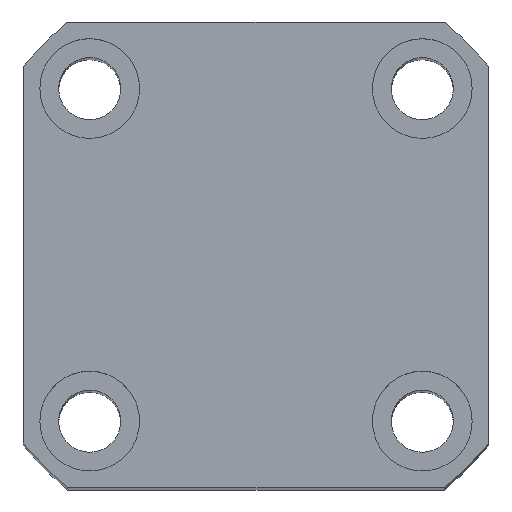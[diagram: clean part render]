
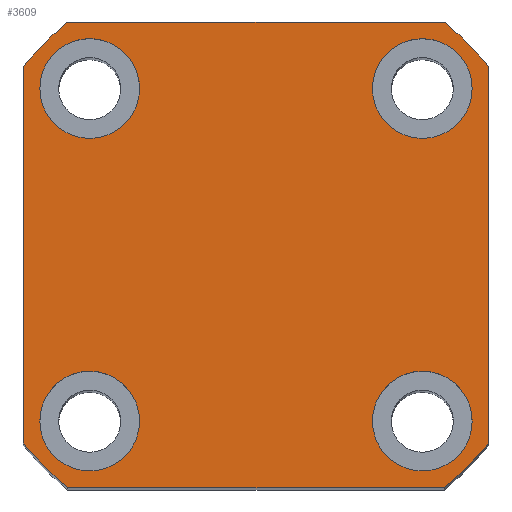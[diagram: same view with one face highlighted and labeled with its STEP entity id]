
A CAD part, top view. The second image highlights one B-rep face of the part: STEP entity #3609.
In plain terms, the highlighted planar face has unit normal (0, 0, 1).
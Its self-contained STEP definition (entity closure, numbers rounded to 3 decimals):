
#6 = CARTESIAN_POINT ( 'NONE',  ( 15., -14.998, 123. ) ) ;
#21 = ORIENTED_EDGE ( 'NONE', *, *, #10220, .F. ) ;
#46 = CARTESIAN_POINT ( 'NONE',  ( 21., -16.971, 123. ) ) ;
#193 = VERTEX_POINT ( 'NONE', #11933 ) ;
#309 = CARTESIAN_POINT ( 'NONE',  ( -16.971, 21., 123. ) ) ;
#624 = EDGE_CURVE ( 'NONE', #4788, #9771, #13396, .T. ) ;
#673 = DIRECTION ( 'NONE',  ( 1., 0., 0. ) ) ;
#701 = CIRCLE ( 'NONE', #11856, 4.5 ) ;
#804 = ORIENTED_EDGE ( 'NONE', *, *, #12317, .F. ) ;
#818 = EDGE_CURVE ( 'NONE', #3665, #193, #12085, .T. ) ;
#1078 = DIRECTION ( 'NONE',  ( 1., 0., 0. ) ) ;
#1123 = EDGE_CURVE ( 'NONE', #2475, #3665, #13598, .T. ) ;
#1146 = CARTESIAN_POINT ( 'NONE',  ( -21., -21., 123. ) ) ;
#1151 = AXIS2_PLACEMENT_3D ( 'NONE', #9530, #3093, #10611 ) ;
#1327 = DIRECTION ( 'NONE',  ( 0., 0., 1. ) ) ;
#1342 = ORIENTED_EDGE ( 'NONE', *, *, #1123, .T. ) ;
#1356 = ORIENTED_EDGE ( 'NONE', *, *, #12049, .F. ) ;
#1398 = DIRECTION ( 'NONE',  ( 0., 0., 1. ) ) ;
#1494 = DIRECTION ( 'NONE',  ( 0., 0., 1. ) ) ;
#1530 = CARTESIAN_POINT ( 'NONE',  ( 15., 15., 123. ) ) ;
#1538 = CIRCLE ( 'NONE', #2662, 4.5 ) ;
#1540 = CIRCLE ( 'NONE', #12542, 27. ) ;
#1594 = VERTEX_POINT ( 'NONE', #12288 ) ;
#1636 = CARTESIAN_POINT ( 'NONE',  ( -16.971, -21., 123. ) ) ;
#1853 = AXIS2_PLACEMENT_3D ( 'NONE', #12776, #6366, #13826 ) ;
#2143 = FACE_BOUND ( 'NONE', #7684, .T. ) ;
#2416 = AXIS2_PLACEMENT_3D ( 'NONE', #1530, #9054, #2606 ) ;
#2475 = VERTEX_POINT ( 'NONE', #309 ) ;
#2595 = DIRECTION ( 'NONE',  ( 0., 0., 1. ) ) ;
#2606 = DIRECTION ( 'NONE',  ( 1., 0., 0. ) ) ;
#2655 = VERTEX_POINT ( 'NONE', #1636 ) ;
#2662 = AXIS2_PLACEMENT_3D ( 'NONE', #6, #7525, #1078 ) ;
#2982 = VERTEX_POINT ( 'NONE', #8603 ) ;
#2987 = DIRECTION ( 'NONE',  ( 0., 0., 1. ) ) ;
#3093 = DIRECTION ( 'NONE',  ( 0., 0., 1. ) ) ;
#3210 = AXIS2_PLACEMENT_3D ( 'NONE', #7837, #1398, #8930 ) ;
#3268 = VECTOR ( 'NONE', #5034, 1000. ) ;
#3280 = DIRECTION ( 'NONE',  ( 0., 0., 1. ) ) ;
#3302 = DIRECTION ( 'NONE',  ( 1., 0., 0. ) ) ;
#3477 = VECTOR ( 'NONE', #12357, 1000. ) ;
#3514 = ORIENTED_EDGE ( 'NONE', *, *, #12752, .F. ) ;
#3609 = ADVANCED_FACE ( 'NONE', ( #10368, #5008, #2143, #10714, #7540 ), #6777, .T. ) ;
#3648 = CARTESIAN_POINT ( 'NONE',  ( 19.5, 15., 123. ) ) ;
#3665 = VERTEX_POINT ( 'NONE', #11077 ) ;
#3943 = VERTEX_POINT ( 'NONE', #4513 ) ;
#4052 = CIRCLE ( 'NONE', #5560, 4.5 ) ;
#4102 = EDGE_CURVE ( 'NONE', #11700, #11743, #8325, .T. ) ;
#4513 = CARTESIAN_POINT ( 'NONE',  ( 10.5, -14.998, 123. ) ) ;
#4523 = ORIENTED_EDGE ( 'NONE', *, *, #8367, .T. ) ;
#4540 = ORIENTED_EDGE ( 'NONE', *, *, #12824, .F. ) ;
#4553 = EDGE_CURVE ( 'NONE', #5987, #8929, #13158, .T. ) ;
#4788 = VERTEX_POINT ( 'NONE', #13461 ) ;
#4792 = DIRECTION ( 'NONE',  ( -1., 0., 0. ) ) ;
#5008 = FACE_BOUND ( 'NONE', #7338, .T. ) ;
#5034 = DIRECTION ( 'NONE',  ( 0., 1., 0. ) ) ;
#5400 = ORIENTED_EDGE ( 'NONE', *, *, #4102, .T. ) ;
#5560 = AXIS2_PLACEMENT_3D ( 'NONE', #9711, #3280, #10799 ) ;
#5905 = CIRCLE ( 'NONE', #1853, 27. ) ;
#5987 = VERTEX_POINT ( 'NONE', #3648 ) ;
#6025 = CARTESIAN_POINT ( 'NONE',  ( 0., 0., 123. ) ) ;
#6111 = VECTOR ( 'NONE', #3302, 1000. ) ;
#6259 = CIRCLE ( 'NONE', #1151, 4.5 ) ;
#6360 = CARTESIAN_POINT ( 'NONE',  ( -10.5, -14.998, 123. ) ) ;
#6366 = DIRECTION ( 'NONE',  ( 0., 0., 1. ) ) ;
#6412 = ORIENTED_EDGE ( 'NONE', *, *, #11411, .T. ) ;
#6635 = AXIS2_PLACEMENT_3D ( 'NONE', #9345, #1494, #11128 ) ;
#6746 = ORIENTED_EDGE ( 'NONE', *, *, #13886, .T. ) ;
#6759 = ORIENTED_EDGE ( 'NONE', *, *, #13868, .F. ) ;
#6777 = PLANE ( 'NONE',  #3210 ) ;
#6830 = EDGE_CURVE ( 'NONE', #1594, #11700, #1540, .T. ) ;
#7025 = EDGE_CURVE ( 'NONE', #7748, #2475, #7857, .T. ) ;
#7070 = DIRECTION ( 'NONE',  ( 0., 0., 1. ) ) ;
#7103 = DIRECTION ( 'NONE',  ( 1., 0., 0. ) ) ;
#7128 = DIRECTION ( 'NONE',  ( 0., 0., 1. ) ) ;
#7338 = EDGE_LOOP ( 'NONE', ( #1356, #6759 ) ) ;
#7525 = DIRECTION ( 'NONE',  ( 0., 0., 1. ) ) ;
#7538 = AXIS2_PLACEMENT_3D ( 'NONE', #9422, #2987, #10492 ) ;
#7540 = FACE_OUTER_BOUND ( 'NONE', #9562, .T. ) ;
#7607 = AXIS2_PLACEMENT_3D ( 'NONE', #6025, #13505, #7103 ) ;
#7684 = EDGE_LOOP ( 'NONE', ( #804, #3514 ) ) ;
#7748 = VERTEX_POINT ( 'NONE', #13592 ) ;
#7771 = CARTESIAN_POINT ( 'NONE',  ( 0., 0., 123. ) ) ;
#7837 = CARTESIAN_POINT ( 'NONE',  ( 0., 0., 123. ) ) ;
#7857 = LINE ( 'NONE', #12321, #10018 ) ;
#8325 = LINE ( 'NONE', #11462, #3268 ) ;
#8367 = EDGE_CURVE ( 'NONE', #11743, #7748, #12223, .T. ) ;
#8603 = CARTESIAN_POINT ( 'NONE',  ( 19.5, -14.998, 123. ) ) ;
#8604 = CARTESIAN_POINT ( 'NONE',  ( 21., 16.971, 123. ) ) ;
#8855 = DIRECTION ( 'NONE',  ( 1., 0., 0. ) ) ;
#8929 = VERTEX_POINT ( 'NONE', #12005 ) ;
#8930 = DIRECTION ( 'NONE',  ( 1., 0., 0. ) ) ;
#8931 = ORIENTED_EDGE ( 'NONE', *, *, #4553, .F. ) ;
#9043 = CARTESIAN_POINT ( 'NONE',  ( 15., -14.998, 123. ) ) ;
#9054 = DIRECTION ( 'NONE',  ( 0., 0., 1. ) ) ;
#9275 = VERTEX_POINT ( 'NONE', #6360 ) ;
#9345 = CARTESIAN_POINT ( 'NONE',  ( -15., 15.002, 123. ) ) ;
#9422 = CARTESIAN_POINT ( 'NONE',  ( -15., -14.998, 123. ) ) ;
#9507 = VERTEX_POINT ( 'NONE', #10931 ) ;
#9530 = CARTESIAN_POINT ( 'NONE',  ( -15., -14.998, 123. ) ) ;
#9562 = EDGE_LOOP ( 'NONE', ( #5400, #4523, #13630, #1342, #9569, #6746, #6412, #11776 ) ) ;
#9569 = ORIENTED_EDGE ( 'NONE', *, *, #818, .T. ) ;
#9711 = CARTESIAN_POINT ( 'NONE',  ( -15., 15.002, 123. ) ) ;
#9771 = VERTEX_POINT ( 'NONE', #13489 ) ;
#10018 = VECTOR ( 'NONE', #4792, 1000. ) ;
#10103 = DIRECTION ( 'NONE',  ( 1., 0., 0. ) ) ;
#10186 = DIRECTION ( 'NONE',  ( 1., 0., 0. ) ) ;
#10220 = EDGE_CURVE ( 'NONE', #8929, #5987, #11689, .T. ) ;
#10368 = FACE_BOUND ( 'NONE', #11465, .T. ) ;
#10492 = DIRECTION ( 'NONE',  ( 1., 0., 0. ) ) ;
#10611 = DIRECTION ( 'NONE',  ( 1., 0., 0. ) ) ;
#10648 = CARTESIAN_POINT ( 'NONE',  ( -21., 21., 123. ) ) ;
#10714 = FACE_BOUND ( 'NONE', #12373, .T. ) ;
#10799 = DIRECTION ( 'NONE',  ( 1., 0., 0. ) ) ;
#10931 = CARTESIAN_POINT ( 'NONE',  ( -19.5, -14.998, 123. ) ) ;
#11077 = CARTESIAN_POINT ( 'NONE',  ( -21., 16.971, 123. ) ) ;
#11128 = DIRECTION ( 'NONE',  ( 1., 0., 0. ) ) ;
#11187 = CARTESIAN_POINT ( 'NONE',  ( 0., 0., 123. ) ) ;
#11411 = EDGE_CURVE ( 'NONE', #2655, #1594, #12492, .T. ) ;
#11462 = CARTESIAN_POINT ( 'NONE',  ( 21., 21., 123. ) ) ;
#11465 = EDGE_LOOP ( 'NONE', ( #11959, #4540 ) ) ;
#11689 = CIRCLE ( 'NONE', #12022, 4.5 ) ;
#11700 = VERTEX_POINT ( 'NONE', #46 ) ;
#11743 = VERTEX_POINT ( 'NONE', #8604 ) ;
#11776 = ORIENTED_EDGE ( 'NONE', *, *, #6830, .T. ) ;
#11856 = AXIS2_PLACEMENT_3D ( 'NONE', #9043, #2595, #10103 ) ;
#11933 = CARTESIAN_POINT ( 'NONE',  ( -21., -16.971, 123. ) ) ;
#11959 = ORIENTED_EDGE ( 'NONE', *, *, #624, .F. ) ;
#12005 = CARTESIAN_POINT ( 'NONE',  ( 10.5, 15., 123. ) ) ;
#12022 = AXIS2_PLACEMENT_3D ( 'NONE', #13533, #7128, #673 ) ;
#12049 = EDGE_CURVE ( 'NONE', #9275, #9507, #13469, .T. ) ;
#12085 = LINE ( 'NONE', #10648, #3477 ) ;
#12223 = CIRCLE ( 'NONE', #7607, 27. ) ;
#12288 = CARTESIAN_POINT ( 'NONE',  ( 16.971, -21., 123. ) ) ;
#12317 = EDGE_CURVE ( 'NONE', #2982, #3943, #701, .T. ) ;
#12321 = CARTESIAN_POINT ( 'NONE',  ( -21., 21., 123. ) ) ;
#12357 = DIRECTION ( 'NONE',  ( 0., -1., 0. ) ) ;
#12373 = EDGE_LOOP ( 'NONE', ( #8931, #21 ) ) ;
#12492 = LINE ( 'NONE', #1146, #6111 ) ;
#12542 = AXIS2_PLACEMENT_3D ( 'NONE', #7771, #1327, #8855 ) ;
#12752 = EDGE_CURVE ( 'NONE', #3943, #2982, #1538, .T. ) ;
#12776 = CARTESIAN_POINT ( 'NONE',  ( 0., 0., 123. ) ) ;
#12815 = AXIS2_PLACEMENT_3D ( 'NONE', #11187, #7070, #10186 ) ;
#12824 = EDGE_CURVE ( 'NONE', #9771, #4788, #4052, .T. ) ;
#13158 = CIRCLE ( 'NONE', #2416, 4.5 ) ;
#13396 = CIRCLE ( 'NONE', #6635, 4.5 ) ;
#13461 = CARTESIAN_POINT ( 'NONE',  ( -10.5, 15.002, 123. ) ) ;
#13469 = CIRCLE ( 'NONE', #7538, 4.5 ) ;
#13489 = CARTESIAN_POINT ( 'NONE',  ( -19.5, 15.002, 123. ) ) ;
#13505 = DIRECTION ( 'NONE',  ( 0., 0., 1. ) ) ;
#13533 = CARTESIAN_POINT ( 'NONE',  ( 15., 15., 123. ) ) ;
#13592 = CARTESIAN_POINT ( 'NONE',  ( 16.971, 21., 123. ) ) ;
#13598 = CIRCLE ( 'NONE', #12815, 27. ) ;
#13630 = ORIENTED_EDGE ( 'NONE', *, *, #7025, .T. ) ;
#13826 = DIRECTION ( 'NONE',  ( 1., 0., 0. ) ) ;
#13868 = EDGE_CURVE ( 'NONE', #9507, #9275, #6259, .T. ) ;
#13886 = EDGE_CURVE ( 'NONE', #193, #2655, #5905, .T. ) ;
